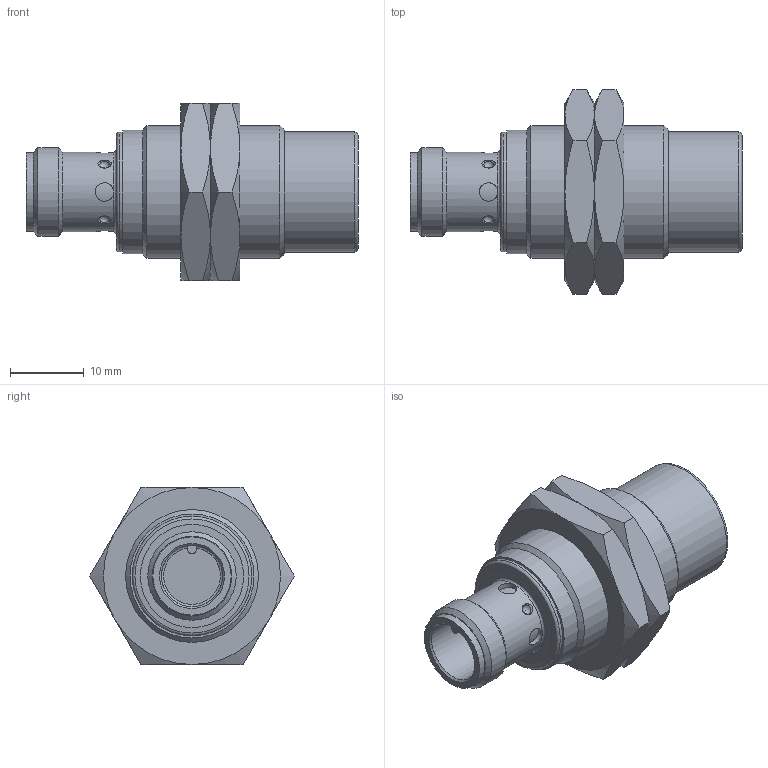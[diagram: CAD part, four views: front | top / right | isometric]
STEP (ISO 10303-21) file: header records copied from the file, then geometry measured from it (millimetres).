
FILE_DESCRIPTION( ( 'STEP AP203' ), '1' );
FILE_NAME( '//expscmdclustefs.cadenas.external/client_exchange/iodir/jobs/output/wkb81176783_no0/STEP/IGS237_2_03.stp', ' ', ( ' ' ), ( ' ' ), 'PSStep 15.0.47', 'PARTsolutions', ' ' );
FILE_SCHEMA( ( 'CONFIG_CONTROL_DESIGN' ) );
Length unit declared in the file: millimetre
Products named in the file (3): IGS237; _IGS237_part1; _SW24-L4-M18x1
Assembly tree (3 placements, depth 2):
  IGS237
    _IGS237_part1
    _SW24-L4-M18x1  x2
Bounding box: 45 x 27.71 x 24 mm (x, y, z)
Volume: 10529.4 mm3; surface area: 4962.9 mm2
Topology: 3 solids, 3 shells, 91 faces, 201 edges, 121 vertices
Faces by surface type: cone 34, plane 26, cylinder 19, torus 8, sphere 4
Full cylindrical faces by diameter (mm): 2.5 x4, 8.3 x1, 10.6 x1, 10.8 x1, 12 x1, 16.2 x1, 16.3 x1, 16.8 x1, 16.917 x2, 18 x1
Entity records: 2194 total; most frequent: CARTESIAN_POINT 823, DIRECTION 258, ORIENTED_EDGE 212, AXIS2_PLACEMENT_3D 122, EDGE_LOOP 107, EDGE_CURVE 106, FACE_OUTER_BOUND 88, VERTEX_POINT 83
